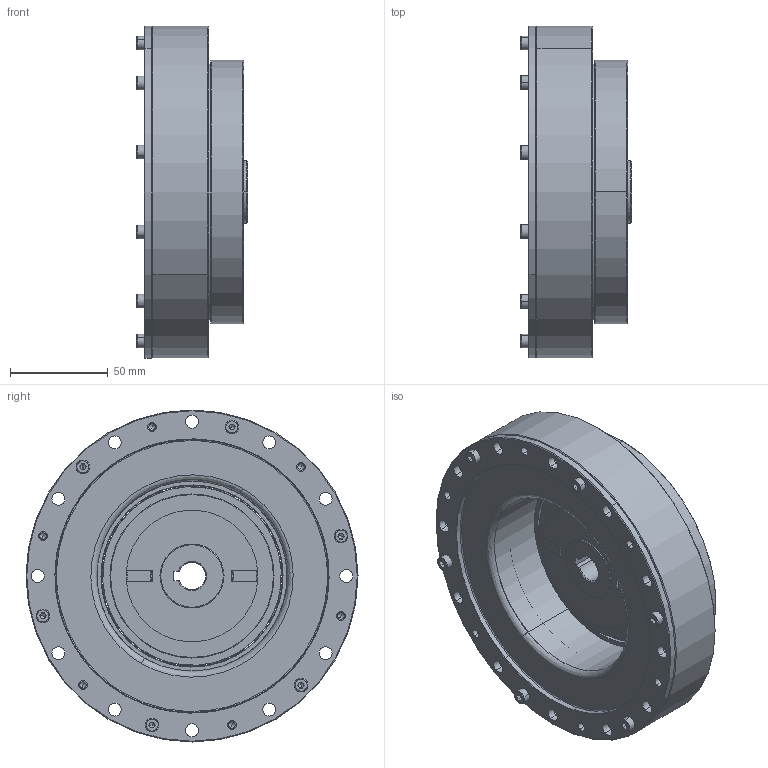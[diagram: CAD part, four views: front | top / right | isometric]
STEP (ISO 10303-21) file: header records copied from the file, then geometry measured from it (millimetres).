
FILE_DESCRIPTION (( 'STEP AP203' ), '1' );
FILE_NAME ('LHS-40-XXX-C-II.step', '2025-01-07T06:46:07', ( '' ), ( '' ), 'SwSTEP 2.0', 'SolidWorks 2023', '' );
FILE_SCHEMA (( 'CONFIG_CONTROL_DESIGN' ));
Length unit declared in the file: metre
Products named in the file (1): LHS-40-XXX-C-II
Bounding box: 57 x 170 x 170 mm (x, y, z)
Volume: 617305 mm3; surface area: 288937.4 mm2
Topology: 46 solids, 46 shells, 1012 faces, 2483 edges, 1466 vertices
Faces by surface type: cylinder 406, plane 288, cone 186, bspline 132
Entity records: 33489 total; most frequent: CARTESIAN_POINT 9986, DIRECTION 5219, ORIENTED_EDGE 4614, EDGE_CURVE 2307, AXIS2_PLACEMENT_3D 2129, VERTEX_POINT 1466, CIRCLE 1248, EDGE_LOOP 1239
